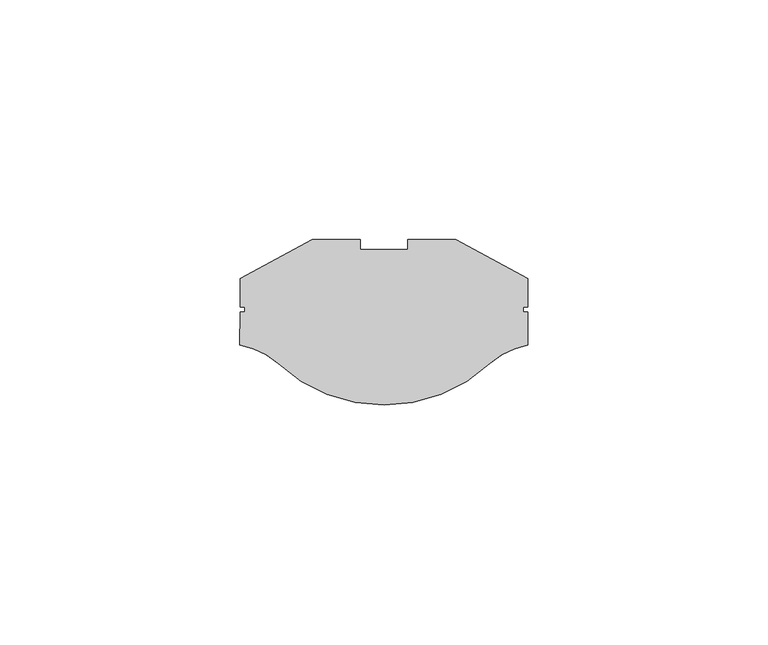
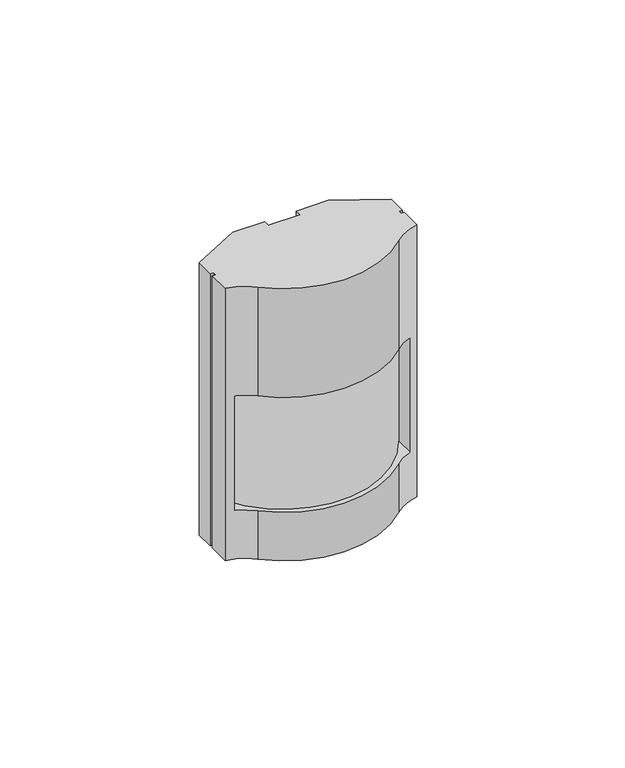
"""IFC4 building model written with IfcOpenShell, lengths in millimetres: alarm geometry, АОПИштора_ тип модель : АОПИ штора."""

from ifc_helpers import new_model, si_unit, frame, origin, place, context, project, spatial, polyline, circle_curve, source, transform, mapped, element, save
from ifc_brep_helpers import plane_surface, cylinder_surface, revolved_surface, advanced_brep


def alarm_8f189408(model_context):
    return source(origin(), model_context, "Body", "AdvancedBrep", [
        advanced_brep(
        [(-5.0, 0.0, 0.0), (-15.0, 0.0, 0.0), (-30.0, -8.0473651, 0.0), (-30.0, -14.0241722, 0.0), (-29.0033784, -14.0241722, 0.0), (-29.0033784, -15.0383278, 0.0), (-30.0, -15.0383278, 0.0), (-30.0, -21.9526349, 0.0), (-22.0521326, -25.8153783, 0.0), (22.0521326, -25.8153783, 0.0), (30.0, -21.9526349, 0.0), (30.0, -15.0383278, 0.0), (29.0033784, -15.0383278, 0.0), (29.0033784, -14.0241722, 0.0), (30.0, -14.0241722, 0.0), (30.0, -8.0473651, 0.0), (15.0, 0.0, 0.0), (5.0, 0.0, 0.0), (5.0, -1.9801842, 0.0), (-5.0, -1.9801842, 0.0), (-5.0, 0.0, -89.9972753), (-5.0, -1.9801842, -89.9972753), (5.0, -1.9801842, -89.9972753), (5.0, 0.0, -89.9972753), (15.0, 0.0, -89.9972753), (30.0, -8.0473651, -89.9972753), (30.0, -14.0241722, -89.9972753), (29.0033784, -14.0241722, -89.9972753), (29.0033784, -15.0383278, -89.9972753), (30.0, -15.0383278, -89.9972753), (30.0, -21.9526349, -89.9972753), (22.0521326, -25.8153783, -89.9972753), (-22.0521326, -25.8153783, -89.9972753), (-30.0, -21.9526349, -89.9972753), (-30.0, -15.0383278, -89.9972753), (-29.0033784, -15.0383278, -89.9972753), (-29.0033784, -14.0241722, -89.9972753), (-30.0, -14.0241722, -89.9972753), (-30.0, -8.0473651, -89.9972753), (-15.0, 0.0, -89.9972753), (-22.0521326, -25.8153783, -73.9972746), (-27.4999997, -22.5734477, -73.9972746), (-27.4999997, -22.5734477, -35.9972746), (-22.0521326, -25.8153783, -35.9972746), (22.0521326, -25.8153783, -35.9972746), (22.0521326, -25.8153783, -73.9972746), (27.5000003, -22.5734475, -35.9972746), (27.5000003, -22.5734475, -73.9972746), (-27.4999997, -16.9721454, -35.9972746), (27.5000003, -16.4157653, -35.9972746), (27.5000003, -16.4157653, -73.9972746), (-27.4999997, -16.9721454, -73.9972746)],
        [
            (0, 1),
            (1, 2),
            (2, 3),
            (3, 4),
            (4, 5),
            (5, 6),
            (6, 7),
            (7, 8, circle_curve(frame((-32.4189443, -37.0378045, 0.0), z_axis=(0.0, 0.0, -1.0), x_axis=(1.0, 0.0, 0.0)), 15.2778805)),
            (8, 9, circle_curve(frame((0.0, -1.9431951, 0.0), z_axis=(0.0, 0.0, 1.0), x_axis=(1.0, 0.0, 0.0)), 32.4988874)),
            (9, 10, circle_curve(frame((32.4189443, -37.0378045, 0.0), z_axis=(0.0, 0.0, -1.0), x_axis=(-1.0, 0.0, 0.0)), 15.2778805)),
            (10, 11),
            (11, 12),
            (12, 13),
            (13, 14),
            (14, 15),
            (15, 16),
            (16, 17),
            (17, 18),
            (18, 19),
            (19, 0),
            (20, 21),
            (21, 22),
            (22, 23),
            (23, 24),
            (24, 25),
            (25, 26),
            (26, 27),
            (27, 28),
            (28, 29),
            (29, 30),
            (30, 31, circle_curve(frame((32.4189443, -37.0378045, -89.9972753), z_axis=(0.0, 0.0, 1.0), x_axis=(-1.0, 0.0, 0.0)), 15.2778805)),
            (31, 32, circle_curve(frame((0.0, -1.9431951, -89.9972753), z_axis=(0.0, 0.0, -1.0), x_axis=(1.0, 0.0, 0.0)), 32.4988874)),
            (32, 33, circle_curve(frame((-32.4189443, -37.0378045, -89.9972753), z_axis=(0.0, 0.0, 1.0), x_axis=(1.0, 0.0, 0.0)), 15.2778805)),
            (33, 34),
            (34, 35),
            (35, 36),
            (36, 37),
            (37, 38),
            (38, 39),
            (39, 20),
            (0, 20),
            (39, 1),
            (38, 2),
            (37, 3),
            (36, 4),
            (35, 5),
            (34, 6),
            (33, 7),
            (32, 40),
            (40, 41, circle_curve(frame((-32.4189443, -37.0378045, -73.9972746), z_axis=(0.0, 0.0, 1.0), x_axis=(1.0, 0.0, 0.0)), 15.2778805)),
            (41, 42),
            (42, 43, circle_curve(frame((-32.4189443, -37.0378045, -35.9972746), z_axis=(0.0, 0.0, -1.0), x_axis=(1.0, 0.0, 0.0)), 15.2778805)),
            (43, 8),
            (43, 44, circle_curve(frame((0.0, -1.9431951, -35.9972746), z_axis=(0.0, 0.0, 1.0), x_axis=(1.0, 0.0, 0.0)), 32.4988874)),
            (44, 9),
            (31, 45),
            (45, 40, circle_curve(frame((0.0, -1.9431951, -73.9972746), z_axis=(0.0, 0.0, -1.0), x_axis=(1.0, 0.0, 0.0)), 32.4988874)),
            (44, 46, circle_curve(frame((32.4189443, -37.0378045, -35.9972746), z_axis=(0.0, 0.0, -1.0), x_axis=(-1.0, 0.0, 0.0)), 15.2778805)),
            (46, 47),
            (47, 45, circle_curve(frame((32.4189443, -37.0378045, -73.9972746), z_axis=(0.0, 0.0, 1.0), x_axis=(-1.0, 0.0, 0.0)), 15.2778805)),
            (30, 10),
            (29, 11),
            (28, 12),
            (27, 13),
            (26, 14),
            (25, 15),
            (24, 16),
            (23, 17),
            (22, 18),
            (21, 19),
            (48, 49, circle_curve(frame((-0.1553482, -1.3372505, -35.9972746), z_axis=(0.0, 0.0, 1.0), x_axis=(1.0, 0.0, 0.0)), 31.4988874)),
            (49, 46),
            (42, 48),
            (50, 51, circle_curve(frame((-0.1553482, -1.3372505, -73.9972746), z_axis=(0.0, 0.0, -1.0), x_axis=(1.0, 0.0, 0.0)), 31.4988874)),
            (51, 41),
            (47, 50),
            (48, 51),
            (50, 49),
        ],
        [
            plane_surface(frame((0.0, 0.0, 0.0), z_axis=(0.0, 0.0, 1.0), x_axis=(-1.0, 0.0, 0.0))),
            plane_surface(frame((0.0, 0.0, -89.9972753), z_axis=(0.0, 0.0, -1.0), x_axis=(1.0, 0.0, 0.0))),
            plane_surface(frame((-5.0, 0.0, 0.0), z_axis=(0.0, 1.0, 0.0), x_axis=(0.0, 0.0, -1.0))),
            plane_surface(frame((-15.0, 0.0, 0.0), z_axis=(-0.4727531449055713, 0.881194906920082, 0.0), x_axis=(0.0, 0.0, -1.0))),
            plane_surface(frame((-30.0, -8.0473651, 0.0), z_axis=(-1.0, 0.0, 0.0), x_axis=(0.0, 0.0, -1.0))),
            plane_surface(frame((-30.0, -14.0241722, 0.0), z_axis=(0.0, -1.0, 0.0), x_axis=(0.0, 0.0, -1.0))),
            plane_surface(frame((-29.0033784, -14.0241722, 0.0), z_axis=(-1.0, 0.0, 0.0), x_axis=(0.0, 0.0, -1.0))),
            plane_surface(frame((-29.0033784, -15.0383278, 0.0), z_axis=(0.0, 1.0, 0.0), x_axis=(0.0, 0.0, -1.0))),
            plane_surface(frame((-30.0, -15.0383278, 0.0), z_axis=(-1.0, 0.0, 0.0), x_axis=(0.0, 0.0, -1.0))),
            revolved_surface(polyline([(-17.141063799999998, -37.0378045, -89.9972753), (-17.141063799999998, -37.0378045, 0.0)]), (-32.4189443, -37.0378045, -89.9972753), (0.0, 0.0, -1.0)),
            cylinder_surface(frame((0.0, -1.9431951, -89.9972753), z_axis=(0.0, 0.0, 1.0), x_axis=(1.0, 0.0, 0.0)), 32.4988874),
            revolved_surface(polyline([(17.141063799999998, -37.0378045, -89.9972753), (17.141063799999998, -37.0378045, 0.0)]), (32.4189443, -37.0378045, -89.9972753), (0.0, 0.0, -1.0)),
            plane_surface(frame((30.0, -21.9526349, 0.0), z_axis=(1.0, 0.0, 0.0), x_axis=(0.0, 0.0, -1.0))),
            plane_surface(frame((30.0, -15.0383278, 0.0), z_axis=(0.0, 1.0, 0.0), x_axis=(0.0, 0.0, -1.0))),
            plane_surface(frame((29.0033784, -15.0383278, 0.0), z_axis=(1.0, 0.0, 0.0), x_axis=(0.0, 0.0, -1.0))),
            plane_surface(frame((29.0033784, -14.0241722, 0.0), z_axis=(0.0, -1.0, 0.0), x_axis=(0.0, 0.0, -1.0))),
            plane_surface(frame((30.0, -14.0241722, 0.0), z_axis=(1.0, 0.0, 0.0), x_axis=(0.0, 0.0, -1.0))),
            plane_surface(frame((30.0, -8.0473651, 0.0), z_axis=(0.4727531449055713, 0.8811949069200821, 0.0), x_axis=(0.0, 0.0, -1.0))),
            plane_surface(frame((15.0, 0.0, 0.0), z_axis=(0.0, 1.0, 0.0), x_axis=(0.0, 0.0, -1.0))),
            plane_surface(frame((5.0, 0.0, 0.0), z_axis=(-1.0, 0.0, 0.0), x_axis=(0.0, 0.0, -1.0))),
            plane_surface(frame((5.0, -1.9801842, 0.0), z_axis=(0.0, 1.0, 0.0), x_axis=(0.0, 0.0, -1.0))),
            plane_surface(frame((-5.0, -1.9801842, 0.0), z_axis=(1.0, 0.0, 0.0), x_axis=(0.0, 0.0, -1.0))),
            plane_surface(frame((31.3435392, -1.3372505, -35.9972746), z_axis=(0.0, 0.0, -1.0), x_axis=(0.0, -1.0, 0.0))),
            plane_surface(frame((31.3435392, -1.3372505, -73.9972746), z_axis=(0.0, 0.0, 1.0), x_axis=(0.0, 1.0, 0.0))),
            cylinder_surface(frame((-0.1553482, -1.3372505, -73.9972746), z_axis=(0.0, 0.0, -1.0), x_axis=(1.0, 0.0, 0.0)), 31.4988874),
            plane_surface(frame((-27.4999997, -16.9721454, -35.9972746), z_axis=(1.0, 0.0, 0.0), x_axis=(0.0, 0.0, -1.0))),
            plane_surface(frame((27.5000003, -36.7295394, -35.9972746), z_axis=(-1.0, 0.0, 0.0), x_axis=(0.0, 0.0, -1.0))),
        ],
        [
            (0, [[1, 2, 3, 4, 5, 6, 7, 8, 9, 10, 11, 12, 13, 14, 15, 16, 17, 18, 19, 20]]),
            (1, [[21, 22, 23, 24, 25, 26, 27, 28, 29, 30, 31, 32, 33, 34, 35, 36, 37, 38, 39, 40]]),
            (2, [[-1, 41, -40, 42]]),
            (3, [[-2, -42, -39, 43]]),
            (4, [[-3, -43, -38, 44]]),
            (5, [[-4, -44, -37, 45]]),
            (6, [[-5, -45, -36, 46]]),
            (7, [[-6, -46, -35, 47]]),
            (8, [[-7, -47, -34, 48]]),
            (9, [[-8, -48, -33, 49, 50, 51, 52, 53]]),
            (10, [[-9, -53, 54, 55]]),
            (10, [[-32, 56, 57, -49]]),
            (11, [[-10, -55, 58, 59, 60, -56, -31, 61]]),
            (12, [[-11, -61, -30, 62]]),
            (13, [[-12, -62, -29, 63]]),
            (14, [[-13, -63, -28, 64]]),
            (15, [[-14, -64, -27, 65]]),
            (16, [[-15, -65, -26, 66]]),
            (17, [[-16, -66, -25, 67]]),
            (18, [[-17, -67, -24, 68]]),
            (19, [[-18, -68, -23, 69]]),
            (20, [[-19, -69, -22, 70]]),
            (21, [[-20, -70, -21, -41]]),
            (22, [[71, 72, -58, -54, -52, 73]]),
            (23, [[74, 75, -50, -57, -60, 76]]),
            (24, [[-71, 77, -74, 78]]),
            (25, [[-77, -73, -51, -75]]),
            (26, [[-78, -76, -59, -72]]),
        ],
    ),
    ])


if __name__ == "__main__":
    model = new_model("IFC4")
    model_context = context("Model", 3, world=origin())
    ifc_project = project(units=[si_unit("LENGTHUNIT", "METRE", prefix="MILLI")], contexts=[model_context])
    site = spatial("IfcSite", under=ifc_project)
    building = spatial("IfcBuilding", under=site)
    placement = place(None, origin())
    alarm_shape = alarm_8f189408(model_context)
    element("IfcAlarm", 1, ObjectType="АОПИштора_ тип модель : АОПИ штора", at=placement, inside=building, context=model_context, shape_type="MappedRepresentation", body=[
        mapped(alarm_shape, transform((0.0, 0.0, 0.0), x_axis=(1.0, 0.0, 0.0), y_axis=(0.0, 1.0, 0.0), z_axis=(0.0, 0.0, 1.0))),
    ])
    save(model, "model.ifc")
